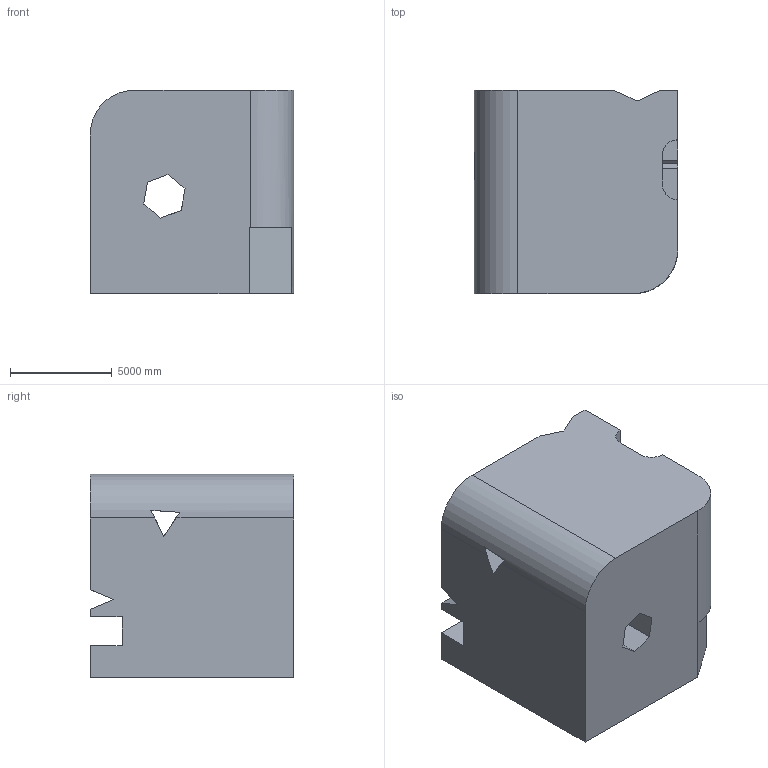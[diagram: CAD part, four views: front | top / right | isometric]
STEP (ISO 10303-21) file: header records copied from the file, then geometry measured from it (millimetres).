
FILE_DESCRIPTION (( 'STEP AP203' ), '1' );
FILE_NAME ('837.STEP', '2022-07-29T13:35:39', ( 'user' ), ( '' ), 'SwSTEP 2.0', 'SolidWorks 2021', '' );
FILE_SCHEMA (( 'CONFIG_CONTROL_DESIGN' ));
Length unit declared in the file: centimetre
Products named in the file (1): 837
Bounding box: 10000 x 10000 x 10000 mm (x, y, z)
Volume: 901710622846.7 mm3; surface area: 712975171.8 mm2
Topology: 1 solids, 1 shells, 42 faces, 129 edges, 86 vertices
Faces by surface type: plane 38, cylinder 4
Entity records: 1507 total; most frequent: CARTESIAN_POINT 273, ORIENTED_EDGE 258, DIRECTION 219, EDGE_CURVE 129, VECTOR 115, LINE 115, VERTEX_POINT 86, AXIS2_PLACEMENT_3D 52
